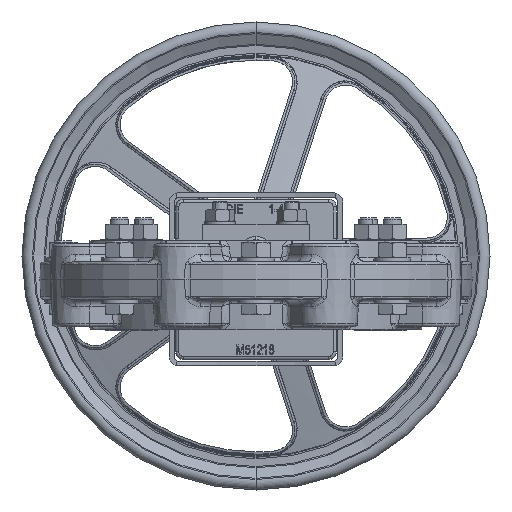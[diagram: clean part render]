
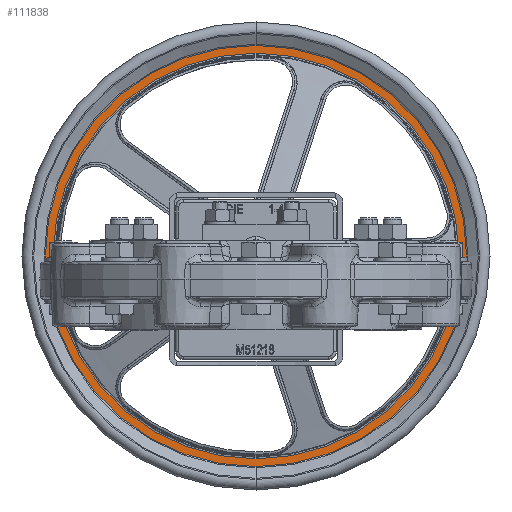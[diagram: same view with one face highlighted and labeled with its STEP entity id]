
A CAD part, front view. The second image highlights one B-rep face of the part: STEP entity #111838.
In plain terms, the highlighted planar face has unit normal (0, -1, 0).
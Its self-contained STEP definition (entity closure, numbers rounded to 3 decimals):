
#3348 = CARTESIAN_POINT ( 'NONE',  ( 0., 524., 14.75 ) ) ;
#7599 = AXIS2_PLACEMENT_3D ( 'NONE', #72208, #16959, #81520 ) ;
#12716 = EDGE_CURVE ( 'NONE', #37524, #85674, #61385, .T. ) ;
#16959 = DIRECTION ( 'NONE',  ( 0., 1., 0. ) ) ;
#17908 = AXIS2_PLACEMENT_3D ( 'NONE', #3348, #76460, #76312 ) ;
#21304 = CIRCLE ( 'NONE', #7599, 135. ) ;
#22715 = CIRCLE ( 'NONE', #110648, 130. ) ;
#25701 = ORIENTED_EDGE ( 'NONE', *, *, #87685, .F. ) ;
#29346 = CARTESIAN_POINT ( 'NONE',  ( 0., 524., 144.75 ) ) ;
#33582 = FACE_BOUND ( 'NONE', #72034, .T. ) ;
#37524 = VERTEX_POINT ( 'NONE', #29346 ) ;
#38803 = EDGE_CURVE ( 'NONE', #85674, #37524, #22715, .T. ) ;
#39063 = PLANE ( 'NONE',  #96074 ) ;
#41668 = CARTESIAN_POINT ( 'NONE',  ( 0., 524., 14.75 ) ) ;
#48306 = CARTESIAN_POINT ( 'NONE',  ( 0., 524., 149.75 ) ) ;
#50952 = DIRECTION ( 'NONE',  ( 0., 0., 1. ) ) ;
#52274 = CARTESIAN_POINT ( 'NONE',  ( 0., 524., -120.25 ) ) ;
#53430 = VERTEX_POINT ( 'NONE', #48306 ) ;
#53478 = DIRECTION ( 'NONE',  ( 0., 1., 0. ) ) ;
#56949 = VERTEX_POINT ( 'NONE', #52274 ) ;
#57438 = EDGE_CURVE ( 'NONE', #53430, #56949, #91617, .T. ) ;
#57631 = DIRECTION ( 'NONE',  ( 0., 0., -1. ) ) ;
#61052 = FACE_OUTER_BOUND ( 'NONE', #61944, .T. ) ;
#61385 = CIRCLE ( 'NONE', #17908, 130. ) ;
#61944 = EDGE_LOOP ( 'NONE', ( #112578, #25701 ) ) ;
#68348 = ORIENTED_EDGE ( 'NONE', *, *, #38803, .T. ) ;
#72034 = EDGE_LOOP ( 'NONE', ( #117903, #68348 ) ) ;
#72208 = CARTESIAN_POINT ( 'NONE',  ( 0., 524., 14.75 ) ) ;
#76312 = DIRECTION ( 'NONE',  ( 0., 0., 1. ) ) ;
#76460 = DIRECTION ( 'NONE',  ( 0., 1., 0. ) ) ;
#81520 = DIRECTION ( 'NONE',  ( 0., 0., 1. ) ) ;
#85674 = VERTEX_POINT ( 'NONE', #110488 ) ;
#87685 = EDGE_CURVE ( 'NONE', #56949, #53430, #21304, .T. ) ;
#91617 = CIRCLE ( 'NONE', #117504, 135. ) ;
#96074 = AXIS2_PLACEMENT_3D ( 'NONE', #103845, #113063, #57631 ) ;
#103845 = CARTESIAN_POINT ( 'NONE',  ( -130., 524., 14.75 ) ) ;
#106469 = DIRECTION ( 'NONE',  ( 0., 1., 0. ) ) ;
#108977 = CARTESIAN_POINT ( 'NONE',  ( 0., 524., 14.75 ) ) ;
#110488 = CARTESIAN_POINT ( 'NONE',  ( 0., 524., -115.25 ) ) ;
#110648 = AXIS2_PLACEMENT_3D ( 'NONE', #108977, #53478, #118207 ) ;
#111838 = ADVANCED_FACE ( 'NONE', ( #33582, #61052 ), #39063, .T. ) ;
#112578 = ORIENTED_EDGE ( 'NONE', *, *, #57438, .F. ) ;
#113063 = DIRECTION ( 'NONE',  ( 0., -1., 0. ) ) ;
#117504 = AXIS2_PLACEMENT_3D ( 'NONE', #41668, #106469, #50952 ) ;
#117903 = ORIENTED_EDGE ( 'NONE', *, *, #12716, .T. ) ;
#118207 = DIRECTION ( 'NONE',  ( 0., 0., 1. ) ) ;
